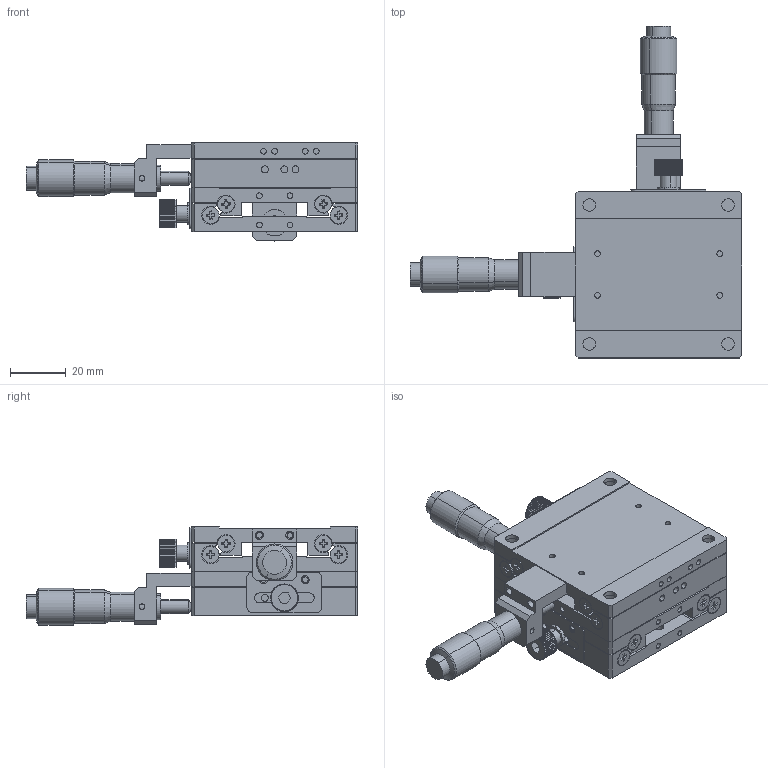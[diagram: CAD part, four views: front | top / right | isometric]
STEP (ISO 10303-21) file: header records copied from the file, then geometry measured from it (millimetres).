
FILE_DESCRIPTION (( 'STEP AP203' ), '1' );
FILE_NAME ('JXY-60C-16H.STEP', '2023-03-15T10:32:28', ( '微软用户' ), ( '微软中国' ), 'SwSTEP 2.0', 'SolidWorks 2018', '' );
FILE_SCHEMA (( 'CONFIG_CONTROL_DESIGN' ));
Length unit declared in the file: millimetre
Products named in the file (11): FC-NB-10 内六角滚花螺丝 （直纹）; JXY-60C-16H; JX-60-02 狟裔; JX-40-05 癹弇え; JALB-72-R(0-13埴芛ロ煦喜); JX-60-01 奻裔; JX-60C-16H; JX-60C（MIR）-16H; JX-40-06 C千分尺固定块; JX-60蹟佪; JCX-80(H18)菜え
Assembly tree (32 placements, depth 3):
  JXY-60C-16H
    JX-60C-16H
      JX-60-02 狟裔
      JX-60-01 奻裔
      JX-60蹟佪  x8
      JX-40-06 C千分尺固定块
      JALB-72-R(0-13埴芛ロ煦喜)
      FC-NB-10 内六角滚花螺丝 （直纹）
      JCX-80(H18)菜え
      JX-40-05 癹弇え
    JX-60C（MIR）-16H
      JX-60-02 狟裔
      JX-60-01 奻裔
      JX-60蹟佪  x8
      JX-40-06 C千分尺固定块
      JALB-72-R(0-13埴芛ロ煦喜)
      JX-40-05 癹弇え
      JCX-80(H18)菜え
      FC-NB-10 内六角滚花螺丝 （直纹）
Bounding box: 119.5 x 119.5 x 35.3 mm (x, y, z)
Volume: 104464.8 mm3; surface area: 58202.2 mm2
Topology: 30 solids, 30 shells, 1364 faces, 3486 edges, 2294 vertices
Faces by surface type: cylinder 786, plane 526, cone 44, sphere 8
Entity records: 19122 total; most frequent: DIRECTION 3303, CARTESIAN_POINT 3141, ORIENTED_EDGE 2798, EDGE_CURVE 1399, AXIS2_PLACEMENT_3D 1333, VERTEX_POINT 923, CIRCLE 754, EDGE_LOOP 664
